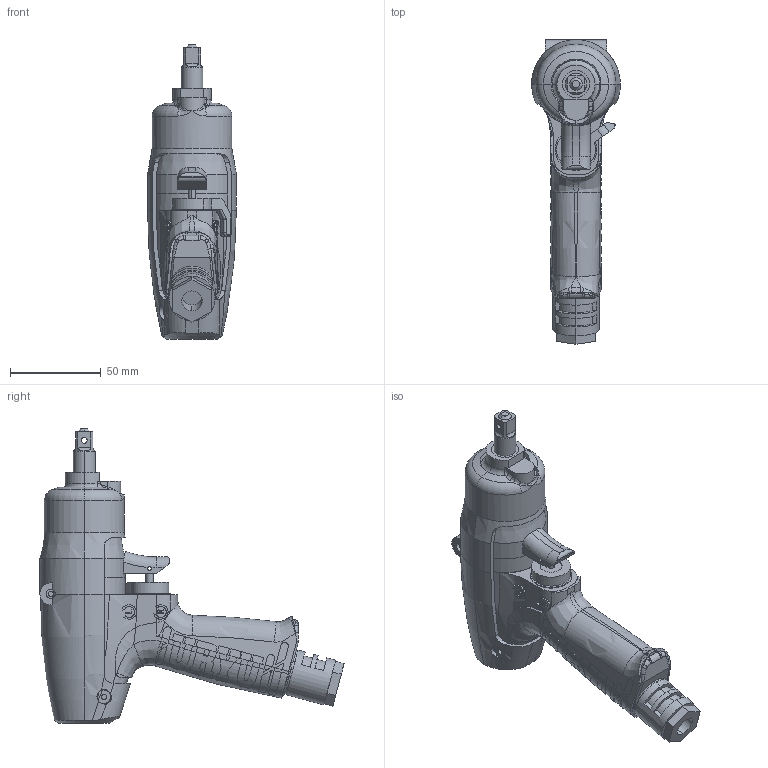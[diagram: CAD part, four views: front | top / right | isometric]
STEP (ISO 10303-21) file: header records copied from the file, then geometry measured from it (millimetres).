
FILE_DESCRIPTION (( 'STEP AP203' ), '1' );
FILE_NAME ('UAT40.STEP', '2015-07-23T01:52:07', ( '' ), ( '' ), 'SwSTEP 2.0', 'SolidWorks 2014', '' );
FILE_SCHEMA (( 'CONFIG_CONTROL_DESIGN' ));
Length unit declared in the file: millimetre
Products named in the file (8): 1450250_UAT40D; 4802128_ULT40D; 1471072_ULT40D; 1478422_UAT40D; 1458407_ULT40D; 1453190_ULT50; UAT40; 1454390_ULT40D
Assembly tree (7 placements, depth 2):
  UAT40
    1454390_ULT40D
    1450250_UAT40D
    4802128_ULT40D
    1471072_ULT40D
    1478422_UAT40D
    1458407_ULT40D
    1453190_ULT50
Bounding box: 49 x 167.83 x 162.3 mm (x, y, z)
Volume: 311598 mm3; surface area: 89675.1 mm2
Topology: 7 solids, 7 shells, 1225 faces, 3413 edges, 2219 vertices
Faces by surface type: plane 726, cylinder 225, bspline 204, torus 44, cone 26
Entity records: 58595 total; most frequent: CARTESIAN_POINT 29720, ORIENTED_EDGE 6806, DIRECTION 4425, EDGE_CURVE 3403, VERTEX_POINT 2219, AXIS2_PLACEMENT_3D 1480, VECTOR 1465, LINE 1465
